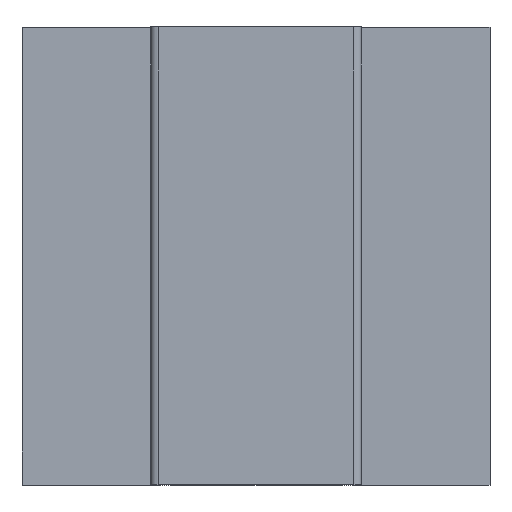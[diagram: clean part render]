
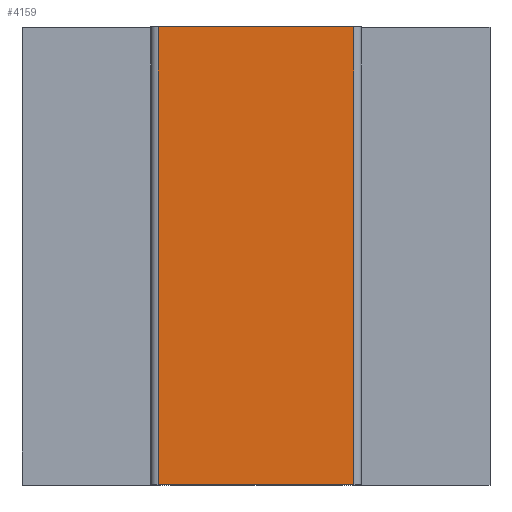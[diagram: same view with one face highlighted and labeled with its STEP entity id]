
A CAD part, top view. The second image highlights one B-rep face of the part: STEP entity #4159.
In plain terms, the highlighted planar face has unit normal (0, 0, 1).
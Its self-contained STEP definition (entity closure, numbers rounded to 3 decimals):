
#76 = EDGE_CURVE ( 'NONE', #11208, #8741, #634, .T. ) ;
#196 = VECTOR ( 'NONE', #10648, 1000. ) ;
#634 = LINE ( 'NONE', #8975, #4043 ) ;
#745 = VECTOR ( 'NONE', #2076, 1000. ) ;
#1004 = EDGE_CURVE ( 'NONE', #8741, #4103, #2147, .T. ) ;
#1378 = CARTESIAN_POINT ( 'NONE',  ( -10.7, 13.415, 39.975 ) ) ;
#2076 = DIRECTION ( 'NONE',  ( 1., 0., 0. ) ) ;
#2147 = LINE ( 'NONE', #5760, #745 ) ;
#2207 = CARTESIAN_POINT ( 'NONE',  ( 0., 13.415, 39.975 ) ) ;
#3007 = DIRECTION ( 'NONE',  ( 0., 0., 1. ) ) ;
#3159 = DIRECTION ( 'NONE',  ( 0., -1., 0. ) ) ;
#3671 = DIRECTION ( 'NONE',  ( 0., -1., 0. ) ) ;
#3895 = EDGE_CURVE ( 'NONE', #11208, #11536, #5776, .T. ) ;
#3962 = ORIENTED_EDGE ( 'NONE', *, *, #3895, .F. ) ;
#4043 = VECTOR ( 'NONE', #3159, 1000. ) ;
#4103 = VERTEX_POINT ( 'NONE', #9458 ) ;
#4159 = ADVANCED_FACE ( 'NONE', ( #5763 ), #9518, .T. ) ;
#4282 = EDGE_LOOP ( 'NONE', ( #7336, #4591, #3962, #5314 ) ) ;
#4591 = ORIENTED_EDGE ( 'NONE', *, *, #4730, .F. ) ;
#4730 = EDGE_CURVE ( 'NONE', #11536, #4103, #11008, .T. ) ;
#4840 = CARTESIAN_POINT ( 'NONE',  ( -10.7, -36.585, 39.975 ) ) ;
#4920 = CARTESIAN_POINT ( 'NONE',  ( -10.7, 13.415, 39.975 ) ) ;
#5314 = ORIENTED_EDGE ( 'NONE', *, *, #76, .T. ) ;
#5699 = VECTOR ( 'NONE', #3671, 1000. ) ;
#5760 = CARTESIAN_POINT ( 'NONE',  ( -10.7, -36.585, 39.975 ) ) ;
#5763 = FACE_OUTER_BOUND ( 'NONE', #4282, .T. ) ;
#5776 = LINE ( 'NONE', #1378, #196 ) ;
#6265 = CARTESIAN_POINT ( 'NONE',  ( 10.7, 13.415, 39.975 ) ) ;
#6294 = AXIS2_PLACEMENT_3D ( 'NONE', #2207, #3007, #7668 ) ;
#6492 = CARTESIAN_POINT ( 'NONE',  ( 10.7, 13.415, 39.975 ) ) ;
#7336 = ORIENTED_EDGE ( 'NONE', *, *, #1004, .T. ) ;
#7668 = DIRECTION ( 'NONE',  ( 0., -1., 0. ) ) ;
#8741 = VERTEX_POINT ( 'NONE', #4840 ) ;
#8975 = CARTESIAN_POINT ( 'NONE',  ( -10.7, 13.415, 39.975 ) ) ;
#9458 = CARTESIAN_POINT ( 'NONE',  ( 10.7, -36.585, 39.975 ) ) ;
#9518 = PLANE ( 'NONE',  #6294 ) ;
#10648 = DIRECTION ( 'NONE',  ( 1., 0., 0. ) ) ;
#11008 = LINE ( 'NONE', #6492, #5699 ) ;
#11208 = VERTEX_POINT ( 'NONE', #4920 ) ;
#11536 = VERTEX_POINT ( 'NONE', #6265 ) ;
